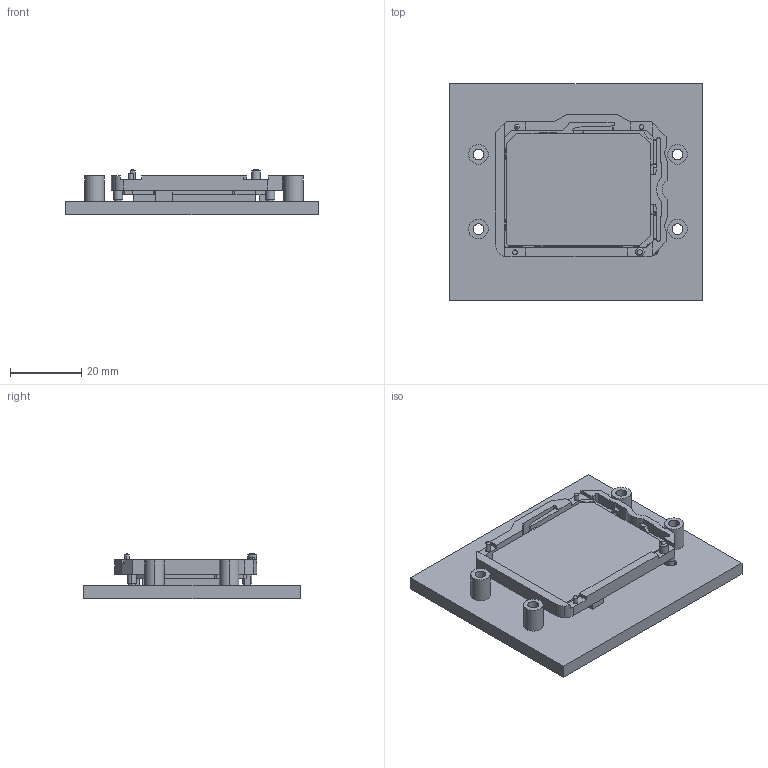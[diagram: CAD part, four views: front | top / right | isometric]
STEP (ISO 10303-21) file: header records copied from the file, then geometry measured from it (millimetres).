
FILE_DESCRIPTION((''),'2;1');
FILE_NAME('2503321a.stp','2001-08-29T17:36:22',(''),(''),'AutoCAD STEP 2000i','AutoCAD 2000i',', , ');
FILE_SCHEMA(('CONFIG_CONTROL_DESIGN'));
Length unit declared in the file: millimetre
Products named in the file (6): 2503321A; ~55DDR_REF; 55DMD; DRAWING2; 848D; DRAWING2A
Assembly tree (4 placements, depth 2):
  2503321A
    ~55DDR_REF
    55DMD
    DRAWING2
    848D
  DRAWING2A
Bounding box: 71.12 x 60.96 x 12.87 mm (x, y, z)
Volume: 27661.1 mm3; surface area: 19634.2 mm2
Topology: 4 solids, 5 shells, 354 faces, 950 edges, 621 vertices
Faces by surface type: plane 233, cylinder 107, cone 14
Entity records: 11363 total; most frequent: CARTESIAN_POINT 2012, DIRECTION 1906, ORIENTED_EDGE 1900, EDGE_CURVE 950, VECTOR 708, LINE 708, VERTEX_POINT 621, AXIS2_PLACEMENT_3D 599
